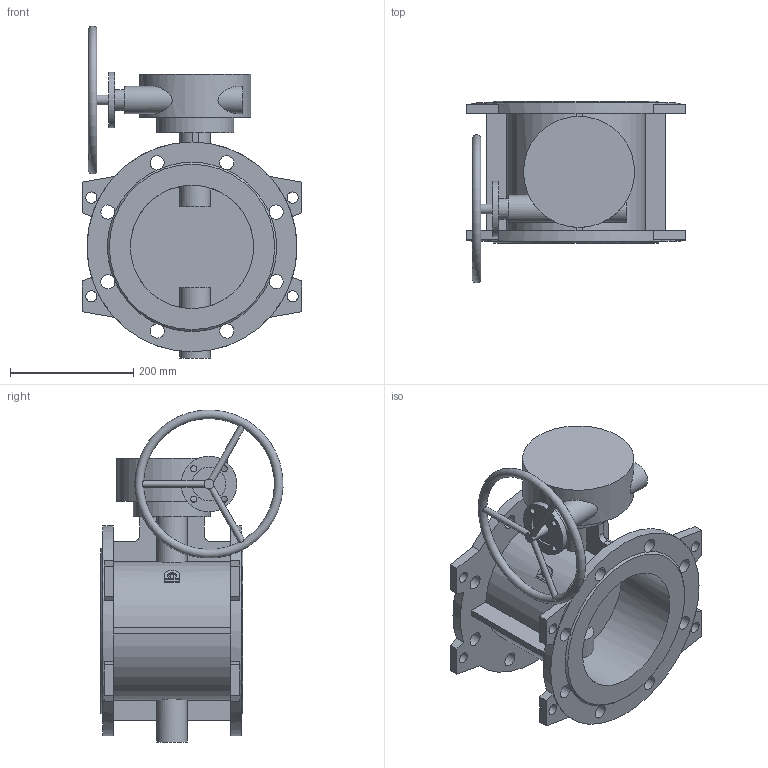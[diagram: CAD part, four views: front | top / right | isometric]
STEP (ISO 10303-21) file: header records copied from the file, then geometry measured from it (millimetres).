
FILE_DESCRIPTION(('STEP AP203'), '1');
FILE_NAME('Çàòâîð 023F.Z DN200 PN10_ìàõ', '', ('UNSPECIFIED'), ('UNSPECIFIED'), 'ASCON STEP Converter 1.6', 'ASCON Math Kernel', '');
FILE_SCHEMA(('CONFIG_CONTROL_DESIGN'));
Length unit declared in the file: millimetre
Bounding box: 356 x 294.89 x 537.93 mm (x, y, z)
Volume: 7644846.3 mm3; surface area: 858584.4 mm2
Topology: 1 solids, 1 shells, 162 faces, 455 edges, 303 vertices
Faces by surface type: plane 90, cylinder 69, cone 2, torus 1
Full cylindrical faces by diameter (mm): 8.3 x4, 10 x7, 12 x4, 16 x1, 18 x8, 23 x16, 34 x1, 44 x1, 50 x1, 55 x1, 90 x1, 125 x1, 180 x1, 200 x2, 340 x2
Entity records: 9827 total; most frequent: CARTESIAN_POINT 4323, DIRECTION 859, ORIENTED_EDGE 798, EDGE_CURVE 399, AXIS2_PLACEMENT_3D 339, VERTEX_POINT 302, EDGE_LOOP 285, FACE_BOUND 202
